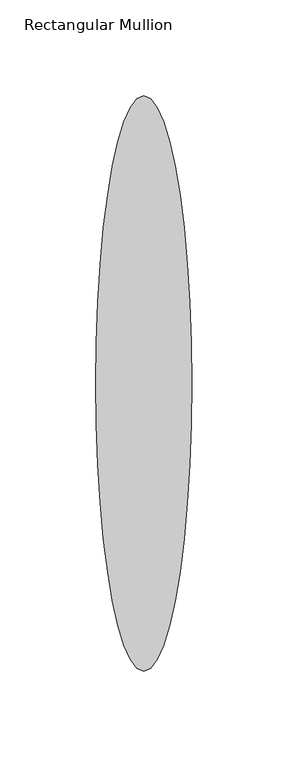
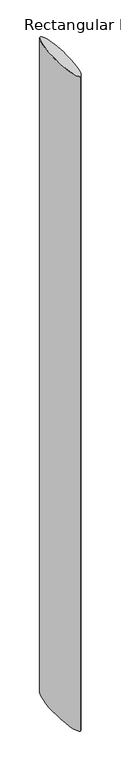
"""IFC4 building model written with IfcOpenShell, lengths in millimetres: member geometry, Rectangular Mullion : RSen_21_CWM_blade - 300 ellips - 0°_gen_duco projects."""

from ifc_helpers import new_model, si_unit, point, frame, origin, place, context, project, spatial, ellipse_curve, trimmed, source, transform, mapped, element, save
from ifc_brep_helpers import plane_surface, extruded_surface, advanced_brep


def rectangular_mullion_489e5dd7(model_context):
    return source(origin(), model_context, "Body", "AdvancedBrep", [
        advanced_brep(
        [(0.0, 13.0, 0.0), (0.0, 313.0, 0.0), (0.0, 13.0, -3000.0), (0.0, 313.0, -3000.0)],
        [
            (0, 1, ellipse_curve(frame((0.0, 163.0, 0.0), z_axis=(0.0, 0.0, 1.0), x_axis=(0.0, 1.0, 0.0)), 150.0, 25.0)),
            (1, 0, ellipse_curve(frame((0.0, 163.0, 0.0), z_axis=(0.0, 0.0, 1.0), x_axis=(0.0, 1.0, 0.0)), 150.0, 25.0)),
            (2, 3, ellipse_curve(frame((0.0, 163.0, -3000.0), z_axis=(0.0, 0.0, -1.0), x_axis=(0.0, 1.0, 0.0)), 150.0, 25.0)),
            (3, 2, ellipse_curve(frame((0.0, 163.0, -3000.0), z_axis=(0.0, 0.0, -1.0), x_axis=(0.0, 1.0, 0.0)), 150.0, 25.0)),
            (0, 2),
            (3, 1),
        ],
        [
            plane_surface(frame((0.0, -313.0, 0.0), z_axis=(0.0, 0.0, 1.0), x_axis=(-1.0, 0.0, 0.0))),
            plane_surface(frame((0.0, -313.0, -3000.0), z_axis=(0.0, 0.0, -1.0), x_axis=(-1.0, 0.0, 0.0))),
            extruded_surface(trimmed(ellipse_curve(frame((0.0, 163.0, -3000.0), z_axis=(0.0, 0.0, 1.0), x_axis=(0.0, 1.0, 0.0)), 150.0, 25.0), [point((0.0, 13.0, -3000.0))], [point((0.0, 313.0, -3000.0))], True, "CARTESIAN"), (0.0, 0.0, 3000.0), 3000.0),
            extruded_surface(trimmed(ellipse_curve(frame((0.0, 163.0, -3000.0), z_axis=(0.0, 0.0, 1.0), x_axis=(0.0, 1.0, 0.0)), 150.0, 25.0), [point((0.0, 313.0, -3000.0))], [point((0.0, 13.0, -3000.0))], True, "CARTESIAN"), (0.0, 0.0, 3000.0), 3000.0),
        ],
        [
            (0, [[1, 2]]),
            (1, [[3, 4]]),
            (2, [[-1, 5, -4, 6]]),
            (3, [[-2, -6, -3, -5]]),
        ],
    ),
    ])


if __name__ == "__main__":
    model = new_model("IFC4")
    model_context = context("Model", 3, world=origin())
    ifc_project = project(units=[si_unit("LENGTHUNIT", "METRE", prefix="MILLI")], contexts=[model_context])
    site = spatial("IfcSite", under=ifc_project)
    building = spatial("IfcBuilding", under=site)
    placement = place(None, origin())
    rectangular_mullion_shape = rectangular_mullion_489e5dd7(model_context)
    element("IfcMember", 1, ObjectType="Rectangular Mullion : RSen_21_CWM_blade - 300 ellips - 0°_gen_duco projects", at=placement, inside=building, context=model_context, shape_type="MappedRepresentation", body=[
        mapped(rectangular_mullion_shape, transform((0.0, 0.0, 0.0), x_axis=(1.0, 0.0, 0.0), y_axis=(0.0, 1.0, 0.0), z_axis=(0.0, 0.0, 1.0))),
    ])
    save(model, "model.ifc")
